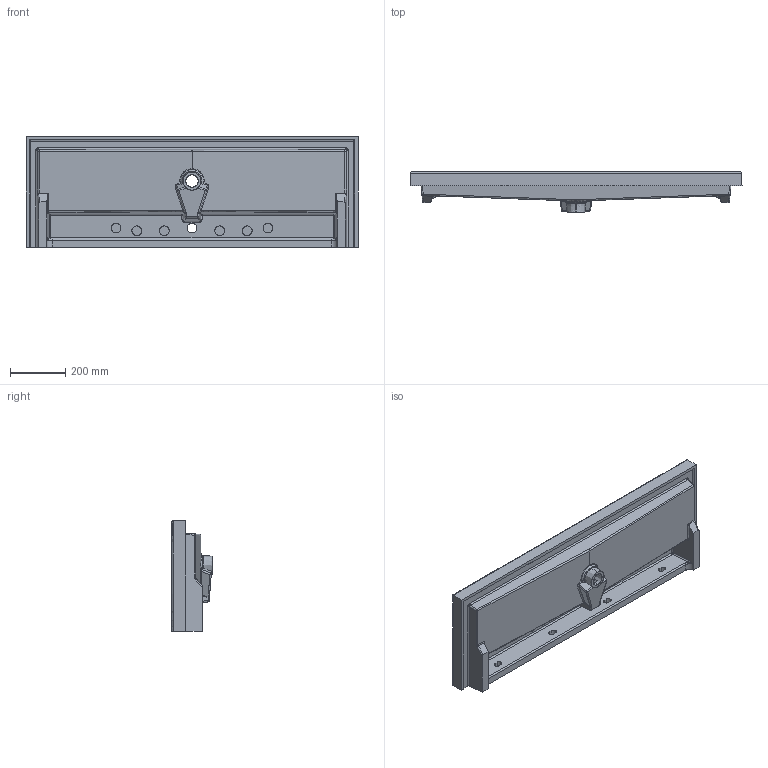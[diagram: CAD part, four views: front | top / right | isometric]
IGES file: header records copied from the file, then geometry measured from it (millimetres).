
Start section: SolidWorks IGES file using analytic representation for surfaces
Global section: file name: K:\lavabi tecla 3D IGS\g. SERIE 40 (4)\SERIE40 40X1204004011 .IGS; native system: SolidWorks 2013; preprocessor: SolidWorks 2013; author: UTENTE 1; date: 140521.170939; units: millimetre
Bounding box: 1201.75 x 145 x 400.87 mm (x, y, z)
Surface area: 1683023.2 mm2 (no closed solid volume)
Topology: 0 solids, 0 shells, 263 faces, 3511 edges, 3505 vertices
Faces by surface type: bspline 132, revolution 131
